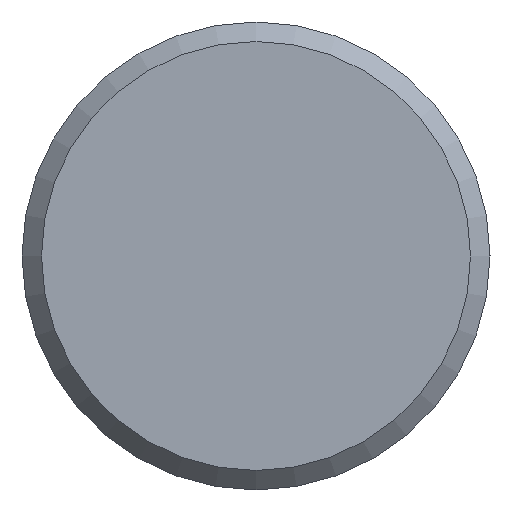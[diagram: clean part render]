
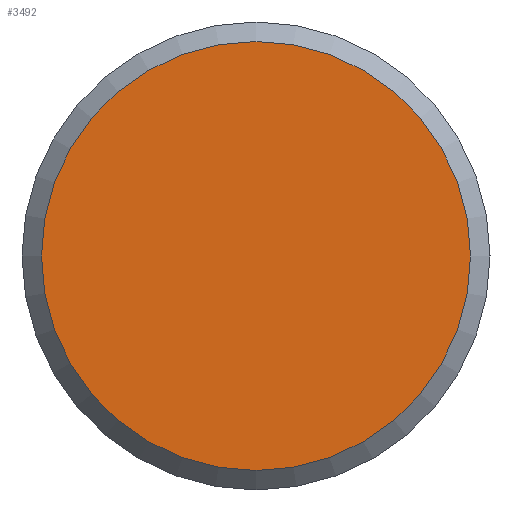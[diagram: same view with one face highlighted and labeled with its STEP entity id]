
A CAD part, left-side view. The second image highlights one B-rep face of the part: STEP entity #3492.
In plain terms, the highlighted planar face has unit normal (-1, 0, 0).
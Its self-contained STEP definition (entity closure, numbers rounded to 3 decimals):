
#1258=PLANE('',#3215);
#1308=ORIENTED_EDGE('',*,*,#1776,.F.);
#1540=CIRCLE('',#3214,5.5);
#1658=VERTEX_POINT('',#2857);
#1776=EDGE_CURVE('',#1658,#1658,#1540,.T.);
#1898=EDGE_LOOP('',(#1308));
#2134=FACE_BOUND('',#1898,.T.);
#2377=DIRECTION('',(1.,0.,0.));
#2378=DIRECTION('',(0.,-5.5,0.));
#2379=DIRECTION('',(-1.,0.,0.));
#2380=DIRECTION('',(0.,1.,0.));
#2857=CARTESIAN_POINT('',(43.815,113.299,0.));
#2858=CARTESIAN_POINT('',(43.815,118.799,0.));
#2859=CARTESIAN_POINT('',(43.815,118.799,0.));
#3214=AXIS2_PLACEMENT_3D('',#2858,#2377,#2378);
#3215=AXIS2_PLACEMENT_3D('',#2859,#2379,#2380);
#3492=ADVANCED_FACE('',(#2134),#1258,.T.);
